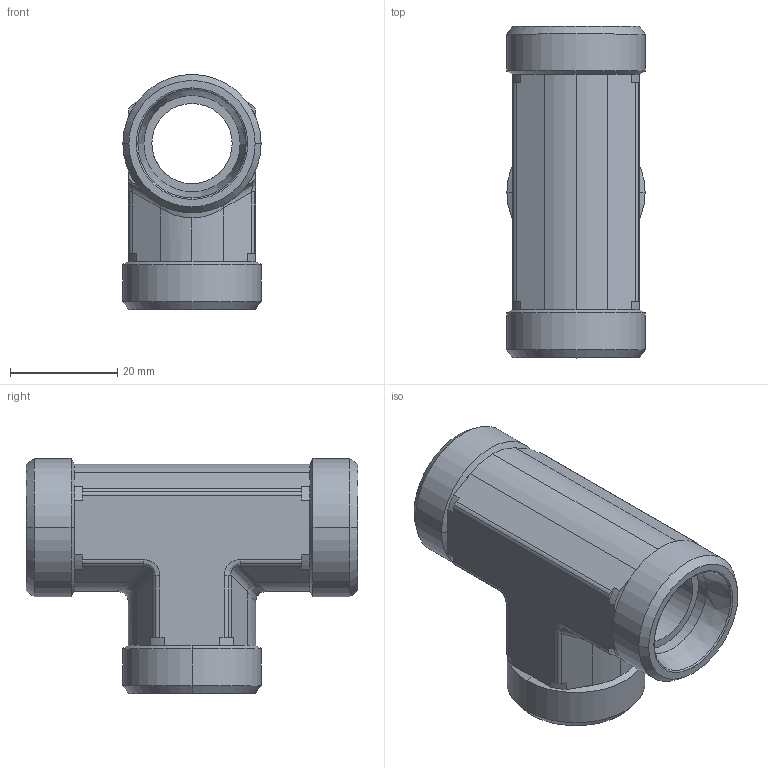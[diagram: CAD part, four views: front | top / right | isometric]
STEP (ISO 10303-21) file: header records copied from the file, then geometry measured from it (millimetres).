
FILE_DESCRIPTION((''),'2;1');
FILE_NAME('103909.stp','2007-10-31T13:09:48',(''),(''),'AutoCAD STEP 2000i','AutoCAD 2000i',', , ');
FILE_SCHEMA(('CONFIG_CONTROL_DESIGN'));
Length unit declared in the file: millimetre
Products named in the file (2): 103909.0; 3091#0
Assembly tree (1 placements, depth 2):
  103909.0
    3091#0
Bounding box: 25.85 x 62 x 43.92 mm (x, y, z)
Volume: 22616.5 mm3; surface area: 11249 mm2
Topology: 1 solids, 1 shells, 139 faces, 346 edges, 211 vertices
Faces by surface type: cylinder 67, plane 42, cone 18, bspline 12
Entity records: 4914 total; most frequent: CARTESIAN_POINT 1388, DIRECTION 785, ORIENTED_EDGE 692, EDGE_CURVE 346, AXIS2_PLACEMENT_3D 310, VERTEX_POINT 211, VECTOR 165, LINE 165
